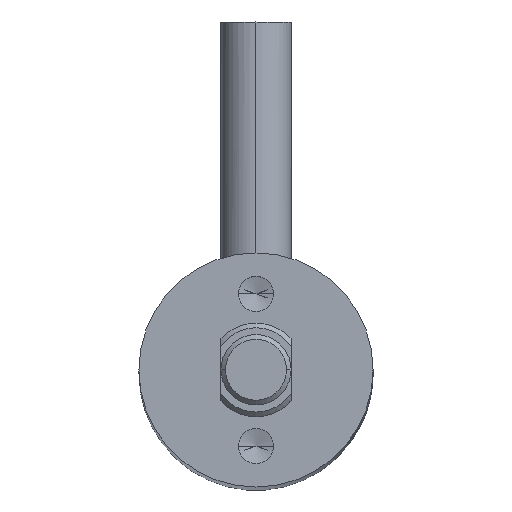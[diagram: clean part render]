
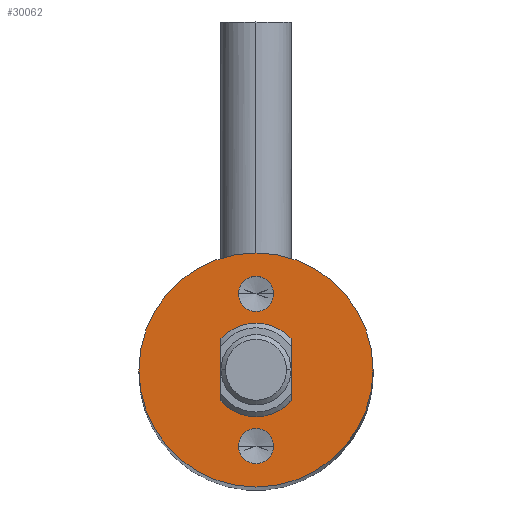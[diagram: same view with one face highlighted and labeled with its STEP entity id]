
A CAD part, top view. The second image highlights one B-rep face of the part: STEP entity #30062.
In plain terms, the highlighted planar face has unit normal (0, 0, 1).
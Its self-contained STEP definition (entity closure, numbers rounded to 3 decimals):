
#1133 = DIRECTION ( 'NONE',  ( 0., 0., 1. ) ) ;
#3231 = DIRECTION ( 'NONE',  ( 1., 0., 0. ) ) ;
#3871 = CARTESIAN_POINT ( 'NONE',  ( 1.5, -1.323, 82.5 ) ) ;
#4772 = DIRECTION ( 'NONE',  ( 0., 0., 1. ) ) ;
#4997 = EDGE_CURVE ( 'NONE', #44197, #12487, #29621, .T. ) ;
#5794 = CARTESIAN_POINT ( 'NONE',  ( 0., 0., 82.5 ) ) ;
#6017 = CIRCLE ( 'NONE', #7339, 0.75 ) ;
#6754 = EDGE_LOOP ( 'NONE', ( #36473, #22701, #19337, #45369 ) ) ;
#6942 = CARTESIAN_POINT ( 'NONE',  ( 0., 3.25, 82.5 ) ) ;
#7104 = ORIENTED_EDGE ( 'NONE', *, *, #32926, .T. ) ;
#7339 = AXIS2_PLACEMENT_3D ( 'NONE', #28073, #39946, #40123 ) ;
#7976 = CARTESIAN_POINT ( 'NONE',  ( 0., 0., 82.5 ) ) ;
#8303 = DIRECTION ( 'NONE',  ( 0., 0., 1. ) ) ;
#8592 = CIRCLE ( 'NONE', #50603, 2. ) ;
#8934 = ORIENTED_EDGE ( 'NONE', *, *, #29165, .F. ) ;
#9838 = ORIENTED_EDGE ( 'NONE', *, *, #42126, .F. ) ;
#10525 = EDGE_CURVE ( 'NONE', #32856, #29436, #38460, .T. ) ;
#10720 = AXIS2_PLACEMENT_3D ( 'NONE', #30705, #38314, #3231 ) ;
#11718 = AXIS2_PLACEMENT_3D ( 'NONE', #31530, #8303, #50987 ) ;
#12254 = CARTESIAN_POINT ( 'NONE',  ( -5., 0., 82.5 ) ) ;
#12487 = VERTEX_POINT ( 'NONE', #30461 ) ;
#14535 = PLANE ( 'NONE',  #10720 ) ;
#16015 = CIRCLE ( 'NONE', #29780, 2. ) ;
#16329 = CARTESIAN_POINT ( 'NONE',  ( 0.75, 3.25, 82.5 ) ) ;
#17054 = CARTESIAN_POINT ( 'NONE',  ( 1.5, -3.139, 82.5 ) ) ;
#17255 = CARTESIAN_POINT ( 'NONE',  ( 0.75, -3.25, 82.5 ) ) ;
#18900 = CARTESIAN_POINT ( 'NONE',  ( -1.5, 1.323, 82.5 ) ) ;
#19337 = ORIENTED_EDGE ( 'NONE', *, *, #42886, .T. ) ;
#19452 = VECTOR ( 'NONE', #39524, 1000. ) ;
#20445 = AXIS2_PLACEMENT_3D ( 'NONE', #7976, #27408, #39639 ) ;
#20686 = LINE ( 'NONE', #31941, #19452 ) ;
#20847 = DIRECTION ( 'NONE',  ( 0., -1., 0. ) ) ;
#20913 = CIRCLE ( 'NONE', #40056, 0.75 ) ;
#22701 = ORIENTED_EDGE ( 'NONE', *, *, #26068, .F. ) ;
#23143 = CIRCLE ( 'NONE', #11718, 0.75 ) ;
#23194 = CARTESIAN_POINT ( 'NONE',  ( -1.5, -1.323, 82.5 ) ) ;
#24687 = CARTESIAN_POINT ( 'NONE',  ( 0., -3.25, 82.5 ) ) ;
#25165 = EDGE_CURVE ( 'NONE', #45483, #40385, #41273, .T. ) ;
#26068 = EDGE_CURVE ( 'NONE', #34878, #40385, #16015, .T. ) ;
#26345 = VERTEX_POINT ( 'NONE', #17255 ) ;
#27085 = VECTOR ( 'NONE', #20847, 1000. ) ;
#27408 = DIRECTION ( 'NONE',  ( 0., 0., 1. ) ) ;
#28073 = CARTESIAN_POINT ( 'NONE',  ( 0., -3.25, 82.5 ) ) ;
#28451 = VERTEX_POINT ( 'NONE', #18900 ) ;
#28920 = EDGE_CURVE ( 'NONE', #45483, #28451, #8592, .T. ) ;
#29165 = EDGE_CURVE ( 'NONE', #33431, #26345, #20913, .T. ) ;
#29436 = VERTEX_POINT ( 'NONE', #12254 ) ;
#29621 = CIRCLE ( 'NONE', #42083, 0.75 ) ;
#29780 = AXIS2_PLACEMENT_3D ( 'NONE', #43832, #4772, #44171 ) ;
#30062 = ADVANCED_FACE ( 'NONE', ( #34397, #39361, #43058, #37503 ), #14535, .T. ) ;
#30461 = CARTESIAN_POINT ( 'NONE',  ( -0.75, 3.25, 82.5 ) ) ;
#30705 = CARTESIAN_POINT ( 'NONE',  ( 0., 0., 82.5 ) ) ;
#31286 = CIRCLE ( 'NONE', #20445, 5. ) ;
#31530 = CARTESIAN_POINT ( 'NONE',  ( 0., 3.25, 82.5 ) ) ;
#31941 = CARTESIAN_POINT ( 'NONE',  ( -1.5, -3.139, 82.5 ) ) ;
#32278 = DIRECTION ( 'NONE',  ( 1., 0., 0. ) ) ;
#32856 = VERTEX_POINT ( 'NONE', #50152 ) ;
#32926 = EDGE_CURVE ( 'NONE', #29436, #32856, #31286, .T. ) ;
#33431 = VERTEX_POINT ( 'NONE', #37138 ) ;
#34292 = DIRECTION ( 'NONE',  ( 0., 0., 1. ) ) ;
#34397 = FACE_BOUND ( 'NONE', #46594, .T. ) ;
#34590 = EDGE_CURVE ( 'NONE', #26345, #33431, #6017, .T. ) ;
#34878 = VERTEX_POINT ( 'NONE', #23194 ) ;
#36473 = ORIENTED_EDGE ( 'NONE', *, *, #25165, .T. ) ;
#36613 = EDGE_LOOP ( 'NONE', ( #7104, #39885 ) ) ;
#37138 = CARTESIAN_POINT ( 'NONE',  ( -0.75, -3.25, 82.5 ) ) ;
#37503 = FACE_OUTER_BOUND ( 'NONE', #36613, .T. ) ;
#37550 = AXIS2_PLACEMENT_3D ( 'NONE', #5794, #44533, #41223 ) ;
#38314 = DIRECTION ( 'NONE',  ( 0., 0., 1. ) ) ;
#38460 = CIRCLE ( 'NONE', #37550, 5. ) ;
#38644 = CARTESIAN_POINT ( 'NONE',  ( 0., 0., 82.5 ) ) ;
#38918 = EDGE_LOOP ( 'NONE', ( #41577, #9838 ) ) ;
#39361 = FACE_BOUND ( 'NONE', #6754, .T. ) ;
#39524 = DIRECTION ( 'NONE',  ( 0., 1., 0. ) ) ;
#39639 = DIRECTION ( 'NONE',  ( 1., 0., 0. ) ) ;
#39885 = ORIENTED_EDGE ( 'NONE', *, *, #10525, .T. ) ;
#39946 = DIRECTION ( 'NONE',  ( 0., 0., 1. ) ) ;
#40056 = AXIS2_PLACEMENT_3D ( 'NONE', #24687, #1133, #32278 ) ;
#40123 = DIRECTION ( 'NONE',  ( 1., 0., 0. ) ) ;
#40385 = VERTEX_POINT ( 'NONE', #3871 ) ;
#41223 = DIRECTION ( 'NONE',  ( 1., 0., 0. ) ) ;
#41273 = LINE ( 'NONE', #17054, #27085 ) ;
#41377 = CARTESIAN_POINT ( 'NONE',  ( 1.5, 1.323, 82.5 ) ) ;
#41577 = ORIENTED_EDGE ( 'NONE', *, *, #4997, .F. ) ;
#42083 = AXIS2_PLACEMENT_3D ( 'NONE', #6942, #34292, #45646 ) ;
#42126 = EDGE_CURVE ( 'NONE', #12487, #44197, #23143, .T. ) ;
#42603 = DIRECTION ( 'NONE',  ( 1., 0., 0. ) ) ;
#42886 = EDGE_CURVE ( 'NONE', #34878, #28451, #20686, .T. ) ;
#42944 = DIRECTION ( 'NONE',  ( 0., 0., 1. ) ) ;
#43058 = FACE_BOUND ( 'NONE', #38918, .T. ) ;
#43832 = CARTESIAN_POINT ( 'NONE',  ( 0., 0., 82.5 ) ) ;
#44171 = DIRECTION ( 'NONE',  ( 1., 0., 0. ) ) ;
#44197 = VERTEX_POINT ( 'NONE', #16329 ) ;
#44533 = DIRECTION ( 'NONE',  ( 0., 0., 1. ) ) ;
#45369 = ORIENTED_EDGE ( 'NONE', *, *, #28920, .F. ) ;
#45483 = VERTEX_POINT ( 'NONE', #41377 ) ;
#45646 = DIRECTION ( 'NONE',  ( 1., 0., 0. ) ) ;
#46594 = EDGE_LOOP ( 'NONE', ( #50620, #8934 ) ) ;
#50152 = CARTESIAN_POINT ( 'NONE',  ( 5., 0., 82.5 ) ) ;
#50603 = AXIS2_PLACEMENT_3D ( 'NONE', #38644, #42944, #42603 ) ;
#50620 = ORIENTED_EDGE ( 'NONE', *, *, #34590, .F. ) ;
#50987 = DIRECTION ( 'NONE',  ( 1., 0., 0. ) ) ;
